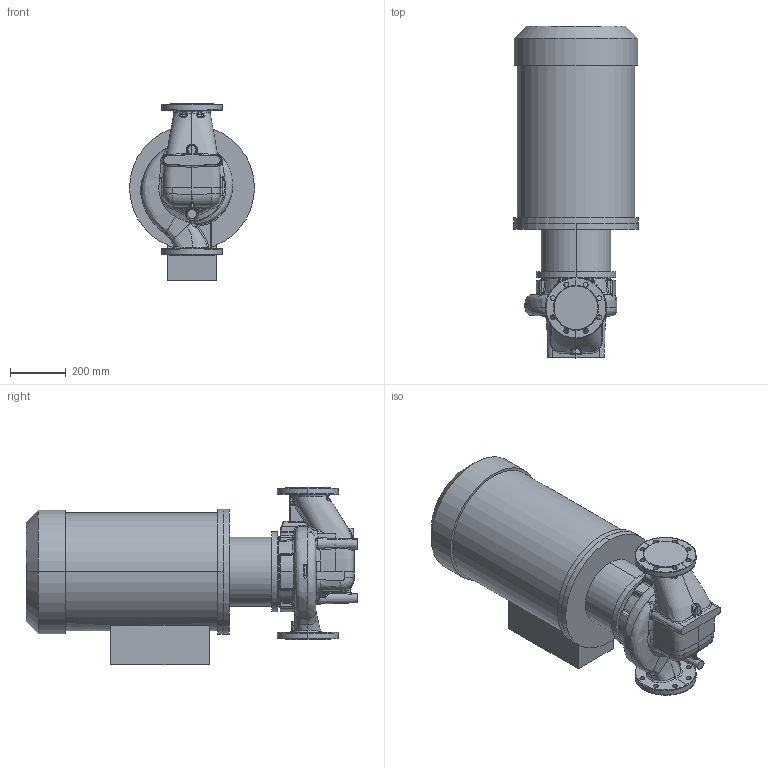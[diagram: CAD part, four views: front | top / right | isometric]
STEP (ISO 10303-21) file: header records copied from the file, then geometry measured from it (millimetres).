
FILE_DESCRIPTION (( 'STEP AP203' ), '1' );
FILE_NAME ('KRL 100-200-219_2-45.STEP', '2026-05-12T13:09:59', ( '' ), ( '' ), 'SwSTEP 2.0', 'SolidWorks 2016', '' );
FILE_SCHEMA (( 'CONFIG_CONTROL_DESIGN' ));
Length unit declared in the file: millimetre
Products named in the file (1): KRL 100-200-219_2-45
Bounding box: 450 x 1195.8 x 640 mm (x, y, z)
Volume: 143491498.8 mm3; surface area: 2718084.7 mm2
Topology: 4 solids, 4 shells, 785 faces, 1887 edges, 1096 vertices
Faces by surface type: bspline 397, cylinder 180, plane 106, sphere 39, torus 33, cone 30
Entity records: 62086 total; most frequent: CARTESIAN_POINT 47356, ORIENTED_EDGE 3704, DIRECTION 2226, EDGE_CURVE 1852, VERTEX_POINT 1094, AXIS2_PLACEMENT_3D 964, EDGE_LOOP 836, FACE_OUTER_BOUND 785
